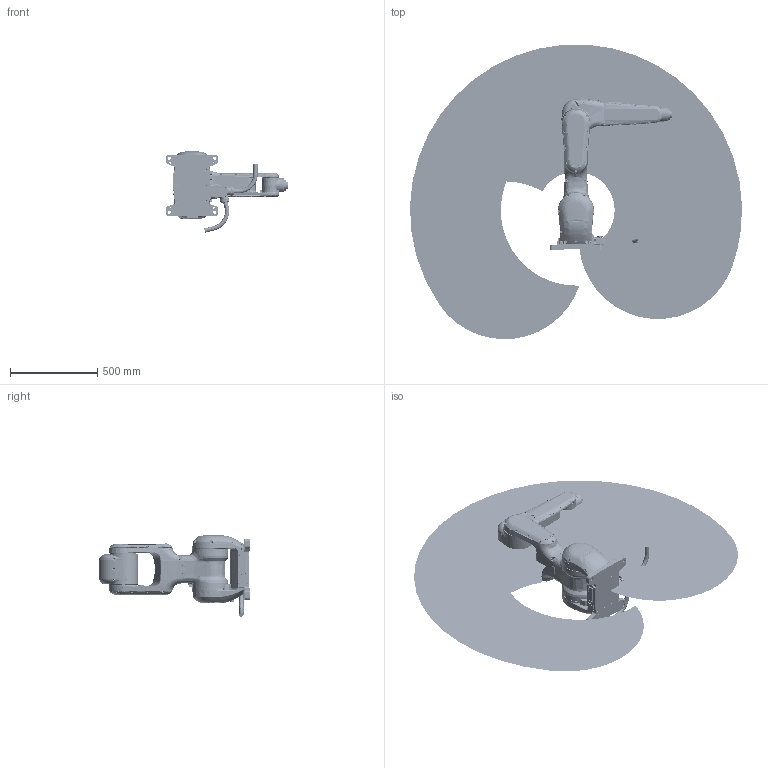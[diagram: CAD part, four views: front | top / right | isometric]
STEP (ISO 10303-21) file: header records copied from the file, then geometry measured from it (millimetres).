
FILE_DESCRIPTION (( 'STEP AP214' ), '1' );
FILE_NAME ('NB12s／_-2509 简化模型(20250924).STEP', '2025-09-24T01:27:24', ( '' ), ( '' ), 'SwSTEP 2.0', 'SolidWorks 2012', '' );
FILE_SCHEMA (( 'AUTOMOTIVE_DESIGN' ));
Products named in the file (8): NB12-shouwan-A; NB12-shuchu-A; NB12-base-B; NB12-xiaobihou-B; NB12s-3DWork-B; NB12-dabi-B; NB12s／_-2509 简化模型(20250924); NB12-xiaobiqian-Clogo
Assembly tree (7 placements, depth 2):
  NB12s／_-2509 简化模型(20250924)
    NB12-base-B
    NB12-dabi-B
    NB12-xiaobihou-B
    NB12-xiaobiqian-Clogo
    NB12-shouwan-A
    NB12-shuchu-A
    NB12s-3DWork-B
Bounding box: 1904.93 x 1689.56 x 467.53 mm (x, y, z)
Volume: 40971865.4 mm3; surface area: 3986364.1 mm2
Topology: 49 solids, 71 shells, 9546 faces, 23082 edges, 13777 vertices
Faces by surface type: plane 3628, cylinder 2112, bspline 1983, cone 1624, torus 185, sphere 14
Entity records: 480909 total; most frequent: CARTESIAN_POINT 282848, ORIENTED_EDGE 45318, DIRECTION 34121, EDGE_CURVE 22662, VERTEX_POINT 13768, AXIS2_PLACEMENT_3D 12902, EDGE_LOOP 10285, FACE_OUTER_BOUND 9544
